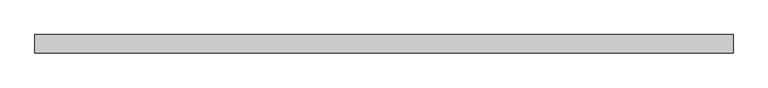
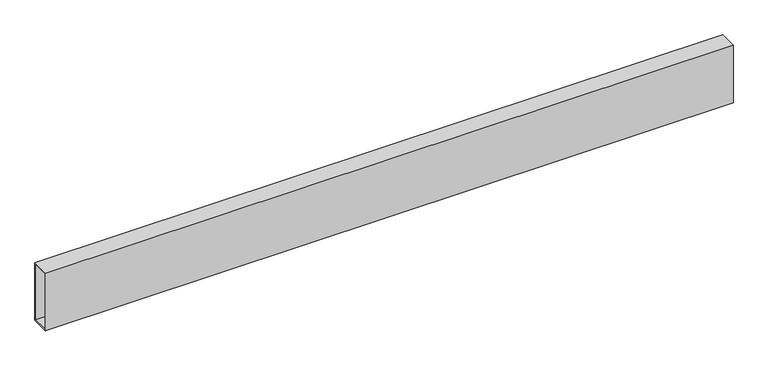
"""IFC4 building model written with IfcOpenShell, lengths in millimetres: proxy geometry, 5_Профиль_Управление параметрами : 5_Профиль_Управление параметрами."""

from ifc_helpers import new_model, si_unit, frame, origin, place, context, project, spatial, polyline, outline, extrude, source, transform, mapped, element, save


def generic_models_e365064d(model_context):
    return source(origin(), model_context, "Body", "SweptSolid", [
        extrude(outline(polyline([(150.0, 500.0), (150.0, -500.0), (-150.0, -500.0), (-150.0, 500.0), (150.0, 500.0)]), holes=[polyline([(125.0, 475.0), (-125.0, 475.0), (-125.0, -475.0), (125.0, -475.0), (125.0, 475.0)])]), frame((0.0, 0.0, 0.0), z_axis=(1.0, 0.0, 0.0), x_axis=(0.0, 1.0, 0.0)), (0.0, 0.0, 1.0), 11300.0),
    ])


if __name__ == "__main__":
    model = new_model("IFC4")
    model_context = context("Model", 3, world=origin())
    ifc_project = project(units=[si_unit("LENGTHUNIT", "METRE", prefix="MILLI")], contexts=[model_context])
    site = spatial("IfcSite", under=ifc_project)
    building = spatial("IfcBuilding", under=site)
    placement = place(None, origin())
    generic_models_shape = generic_models_e365064d(model_context)
    element("IfcBuildingElementProxy", 1, Name="5_Профиль_Управление параметрами : 5_Профиль_Управление параметрами", ObjectType="5_Профиль_Управление параметрами : 5_Профиль_Управление параметрами", at=placement, inside=building, context=model_context, shape_type="MappedRepresentation", body=[
        mapped(generic_models_shape, transform((0.0, 0.0, 0.0), x_axis=(1.0, 0.0, 0.0), y_axis=(0.0, 1.0, 0.0), z_axis=(0.0, 0.0, 1.0))),
    ])
    save(model, "model.ifc")
